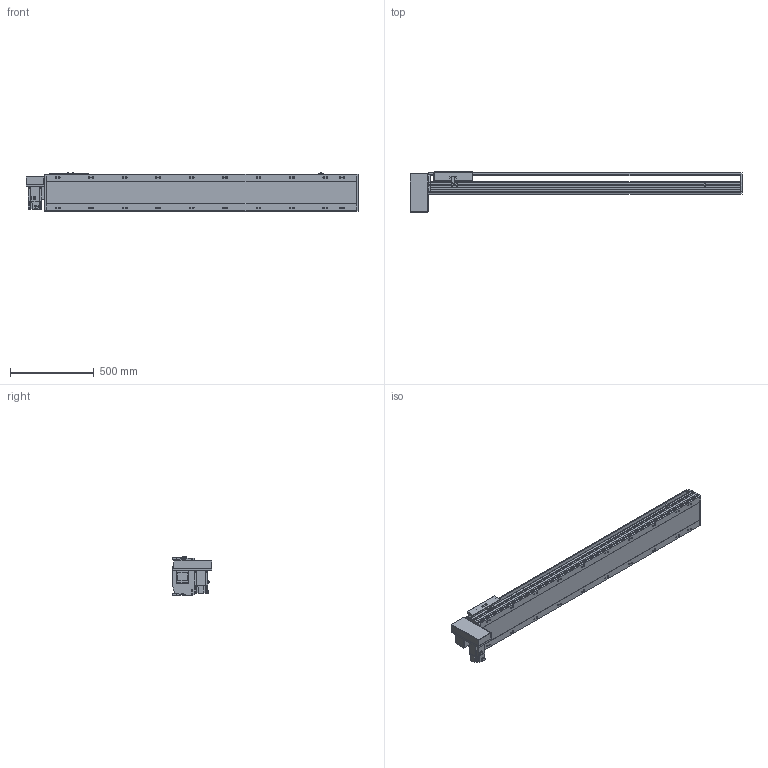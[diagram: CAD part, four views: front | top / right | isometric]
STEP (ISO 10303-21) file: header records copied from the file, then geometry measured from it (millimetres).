
FILE_DESCRIPTION(/* description */ ('STEP AP214'),/* implementation_level */ '2;1');
FILE_NAME(/* name */ 'PBS220-P40-S1500-RD-T75-C1-N(0)',/* time_stamp */ '2022-06-13T02:43:55+02:00',/* author */ ('License CC BY-ND 4.0'),/* organization */ ('CADENAS'),/* preprocessor_version */ 'ST-DEVELOPER v18.102',/* originating_system */ 'PARTsolutions',/* authorisation */ ' ');
FILE_SCHEMA (('AUTOMOTIVE_DESIGN {1 0 10303 214 3 1 1}'));
Length unit declared in the file: millimetre
Products named in the file (7): PBS220-P40-S1500-RD-T75-C1-N(0); PBS220_sensor; PBS220_plant; PBS220_sliser; T75-p1; PBS220T-RD_motors; PBS220-S1500()_body
Assembly tree (8 placements, depth 2):
  PBS220-P40-S1500-RD-T75-C1-N(0)
    PBS220_sensor  x3
    PBS220_plant
    PBS220_sliser
    T75-p1
    PBS220T-RD_motors
    PBS220-S1500()_body
Bounding box: 1984 x 239 x 238.5 mm (x, y, z)
Volume: 28189090.1 mm3; surface area: 2673965 mm2
Topology: 8 solids, 8 shells, 938 faces, 2452 edges, 1594 vertices
Faces by surface type: plane 606, cylinder 288, cone 44
Full cylindrical faces by diameter (mm): 2.013 x4, 4.5 x14, 4.917 x4, 6 x7, 6.647 x8, 8 x10, 8.376 x20, 8.5 x20, 10 x6, 14 x20, 38 x2, 40 x1, 70 x1
Entity records: 26253 total; most frequent: CARTESIAN_POINT 4624, DIRECTION 4563, ORIENTED_EDGE 4178, EDGE_CURVE 2089, AXIS2_PLACEMENT_3D 1607, VERTEX_POINT 1448, LINE 1349, VECTOR 1349
